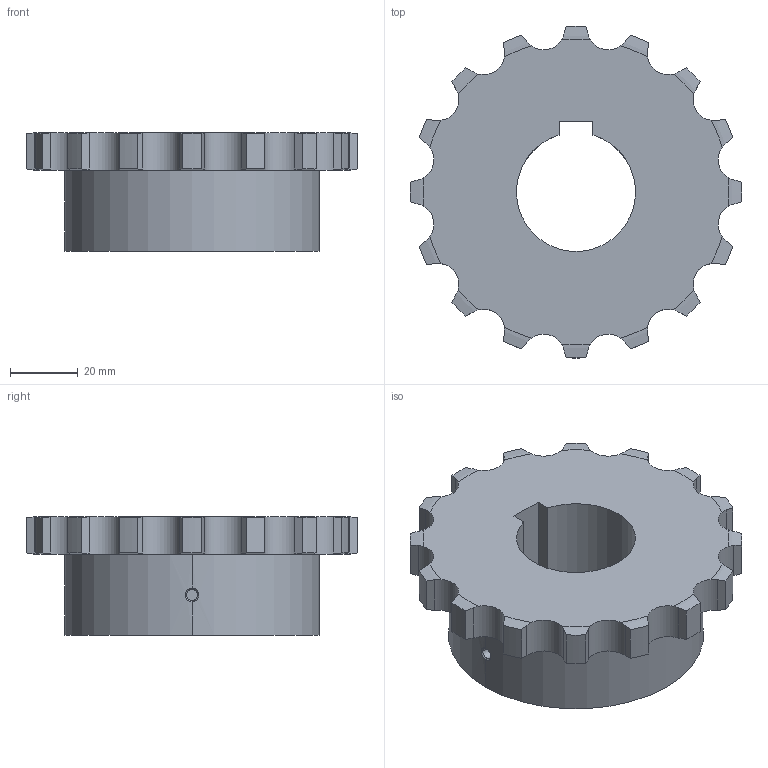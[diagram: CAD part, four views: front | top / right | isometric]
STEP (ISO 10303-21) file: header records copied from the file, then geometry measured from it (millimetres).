
FILE_DESCRIPTION((''),'2;1');
FILE_NAME('510-401-3516_PRT','2021-02-13T',('Brieden'),('Brieden'),'PRO/ENGINEER BY PARAMETRIC TECHNOLOGY CORPORATION, 2010160','PRO/ENGINEER BY PARAMETRIC TECHNOLOGY CORPORATION, 2010160','');
FILE_SCHEMA(('AUTOMOTIVE_DESIGN { 1 0 10303 214 1 1 1 1 }'));
Length unit declared in the file: millimetre
Products named in the file (1): 510-401-3516_PRT
Bounding box: 97.63 x 97.63 x 35 mm (x, y, z)
Volume: 143219.3 mm3; surface area: 25419.5 mm2
Topology: 1 solids, 1 shells, 117 faces, 333 edges, 220 vertices
Faces by surface type: cylinder 71, torus 32, plane 8, bspline 6
Entity records: 5662 total; most frequent: CARTESIAN_POINT 1735, ORIENTED_EDGE 666, DIRECTION 521, PRESENTATION_STYLE_ASSIGNMENT 334, STYLED_ITEM 334, CURVE_STYLE 333, EDGE_CURVE 333, VERTEX_POINT 220
